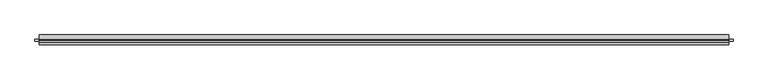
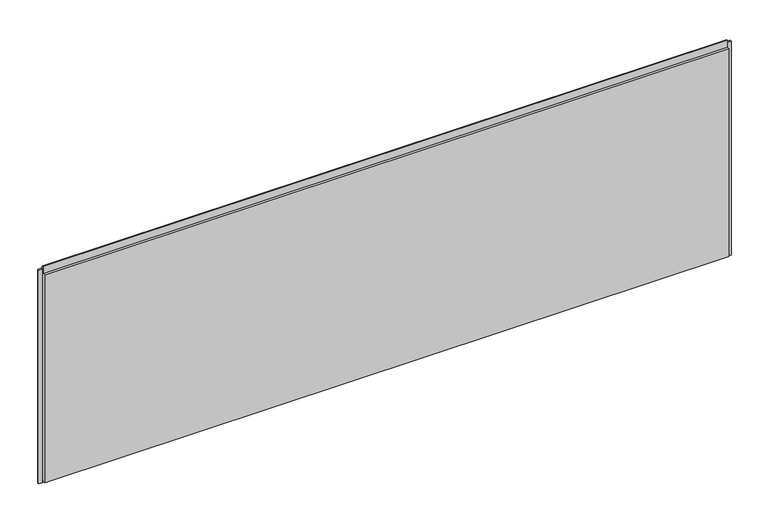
"""IFC4 building model written with IfcOpenShell, lengths in millimetres: plate geometry, Trimo_Qbiss Screen_Normal Panel-HORIZONTAL : HR - B."""

import ifcopenshell
import ifcopenshell.guid

model = None  # the IFC model being written
_history = None  # IfcOwnerHistory: only IFC2X3 demands one
_inside = {}  # id of a spatial element -> (the spatial element, [elements in it])
_under = {}  # id of a project, library or spatial element -> (it, [spatial elements below it])
_declared = {}  # id of a project -> (the project, [libraries it declares])
_typed = {}  # id of a type object -> (the type object, [elements of that type])
_made_of = {}  # id of a material, layer set ... -> (it, [elements and type objects made of it])


def new_model(schema):
    """Start an empty IFC model of exactly this schema.

    Asked for "IFC4X3", IfcOpenShell would pick the latest addendum, in which some entities
    have other attributes; the version numbers below select the first issue.
    IFC2X3 requires an IfcOwnerHistory on every rooted entity: one is made here for all.
    """
    global model, _history
    if schema == "IFC4X3":
        model = ifcopenshell.file(schema_version=(4, 3, 0, 0))
    else:
        model = ifcopenshell.file(schema=schema)
    _inside.clear()
    _under.clear()
    _declared.clear()
    _typed.clear()
    _made_of.clear()
    _history = None
    if model.schema == "IFC2X3":
        org = make("IfcOrganization", Name="unknown")
        user = make(
            "IfcPersonAndOrganization",
            ThePerson=make("IfcPerson", FamilyName="unknown"),
            TheOrganization=org,
        )
        app = make(
            "IfcApplication",
            ApplicationDeveloper=org,
            Version="unknown",
            ApplicationFullName="unknown",
            ApplicationIdentifier="unknown",
        )
        _history = make(
            "IfcOwnerHistory",
            OwningUser=user,
            OwningApplication=app,
            ChangeAction="ADDED",
            CreationDate=0,
        )
    return model


def make(cls, **values):
    """One entity of the class cls with the attributes given. An attribute that is None is left unset."""
    return model.create_entity(
        cls, **{name: value for name, value in values.items() if value is not None}
    )


def rooted(cls, **values):
    """An entity with a GlobalId (a new one), such as an element, a storey or a relation."""
    return make(cls, GlobalId=ifcopenshell.guid.new(), OwnerHistory=_history, **values)


def si_unit(unit_type, name, prefix=None):
    """IfcSIUnit, for example si_unit("LENGTHUNIT", "METRE", prefix="MILLI")."""
    return make("IfcSIUnit", UnitType=unit_type, Prefix=prefix, Name=name)


def assignment(units):
    """IfcUnitAssignment: the units of a project."""
    return None if units is None else make("IfcUnitAssignment", Units=units)


def point(xyz):
    """IfcCartesianPoint."""
    return None if xyz is None else make("IfcCartesianPoint", Coordinates=xyz)


def direction(xyz):
    """IfcDirection."""
    return None if xyz is None else make("IfcDirection", DirectionRatios=xyz)


def frame(location, z_axis=None, x_axis=None):
    """IfcAxis2Placement3D, a coordinate frame: its origin and axes. An axis left out is left unset."""
    return make(
        "IfcAxis2Placement3D",
        Location=point(location),
        Axis=direction(z_axis),
        RefDirection=direction(x_axis),
    )


def origin():
    """The frame at (0, 0, 0) with its axes left unset."""
    return frame((0.0, 0.0, 0.0))


def place(relative_to, where):
    """IfcLocalPlacement: puts the frame where relative to a parent placement (None: the world)."""
    return make(
        "IfcLocalPlacement", PlacementRelTo=relative_to, RelativePlacement=where
    )


def context(
    kind, dimensions, precision=None, world=None, true_north=None, identifier=None
):
    """IfcGeometricRepresentationContext, for example the 3D "Model" context."""
    return make(
        "IfcGeometricRepresentationContext",
        ContextIdentifier=identifier,
        ContextType=kind,
        CoordinateSpaceDimension=dimensions,
        Precision=precision,
        WorldCoordinateSystem=world,
        TrueNorth=true_north,
    )


def project(units=None, contexts=None):
    """IfcProject with its units and contexts."""
    return rooted(
        "IfcProject",
        Name="project",
        RepresentationContexts=contexts,
        UnitsInContext=assignment(units),
    )


def spatial(cls, under=None, at=None, **own):
    """A site, building, storey or space (cls), placed at a placement, below another one or the project."""
    s = rooted(cls, ObjectPlacement=at, **own)
    if under is not None:
        _under.setdefault(under.id(), (under, []))[1].append(s)
    return s


def polyline(points):
    """IfcPolyline through the points."""
    return make("IfcPolyline", Points=[point(p) for p in points])


def outline(outer, holes=None, kind="AREA"):
    """IfcArbitraryClosedProfileDef: a profile drawn as a closed curve; with holes, ...WithVoids."""
    if holes is None:
        return make("IfcArbitraryClosedProfileDef", ProfileType=kind, OuterCurve=outer)
    return make(
        "IfcArbitraryProfileDefWithVoids",
        ProfileType=kind,
        OuterCurve=outer,
        InnerCurves=holes,
    )


def extrude(swept, where, along, depth):
    """IfcExtrudedAreaSolid: the profile swept, set in the frame where, extruded along a direction by depth."""
    return make(
        "IfcExtrudedAreaSolid",
        SweptArea=swept,
        Position=where,
        ExtrudedDirection=direction(along),
        Depth=depth,
    )


def shape(context_of_items, identifier, shape_type, items):
    """IfcShapeRepresentation: the items that make up one representation, for example the "Body"."""
    return make(
        "IfcShapeRepresentation",
        ContextOfItems=context_of_items,
        RepresentationIdentifier=identifier,
        RepresentationType=shape_type,
        Items=items,
    )


def source(mapping_origin, context_of_items, identifier, shape_type, items):
    """IfcRepresentationMap: a shape defined once, which mapped items show again and again."""
    return make(
        "IfcRepresentationMap",
        MappingOrigin=mapping_origin,
        MappedRepresentation=shape(context_of_items, identifier, shape_type, items),
    )


def transform(
    local_origin,
    x_axis=None,
    y_axis=None,
    z_axis=None,
    scale=None,
    scale2=None,
    scale3=None,
    uniform=True,
):
    """IfcCartesianTransformationOperator3D, or its non-uniform kind. x_axis, y_axis, z_axis: its Axis1, 2, 3."""
    if uniform:
        return make(
            "IfcCartesianTransformationOperator3D",
            Axis1=direction(x_axis),
            Axis2=direction(y_axis),
            LocalOrigin=point(local_origin),
            Scale=scale,
            Axis3=direction(z_axis),
        )
    return make(
        "IfcCartesianTransformationOperator3DnonUniform",
        Axis1=direction(x_axis),
        Axis2=direction(y_axis),
        LocalOrigin=point(local_origin),
        Scale=scale,
        Axis3=direction(z_axis),
        Scale2=scale2,
        Scale3=scale3,
    )


def mapped(mapping_source, mapping_target):
    """IfcMappedItem: shows the shape of a source again, moved by a transform."""
    return make(
        "IfcMappedItem", MappingSource=mapping_source, MappingTarget=mapping_target
    )


def made_of(thing, what):
    """Note that an element or type object is made of a material, layer set ...; save() writes the relation."""
    if what is not None:
        _made_of.setdefault(what.id(), (what, []))[1].append(thing)
    return thing


def element(
    cls,
    number,
    at=None,
    inside=None,
    cuts=None,
    type_object=None,
    material=None,
    context=None,
    identifier="Body",
    shape_type=None,
    held_by="IfcProductDefinitionShape",
    body=None,
    shapes=None,
    **own,
):
    """One element of the class cls, such as IfcWall. Its Tag is "e" and its number.

    at: its placement. inside: the storey or other place that contains it. cuts: it is an
    opening in that element (IfcRelVoidsElement). A single representation is given by context,
    identifier, shape_type and body (its items); several are given by shapes. held_by: the class
    of the entity that holds the representations. save() writes the other relations.
    """
    e = rooted(cls, Tag="e%d" % number, ObjectPlacement=at, **own)
    if body is not None:
        shapes = [shape(context, identifier, shape_type, body)]
    if shapes is not None:
        e.Representation = make(held_by, Representations=shapes)
    if inside is not None:
        _inside.setdefault(inside.id(), (inside, []))[1].append(e)
    if cuts is not None:
        rooted(
            "IfcRelVoidsElement", RelatingBuildingElement=cuts, RelatedOpeningElement=e
        )
    if type_object is not None:
        _typed.setdefault(type_object.id(), (type_object, []))[1].append(e)
    return made_of(e, material)


def aggregate(whole, parts):
    """IfcRelAggregates: a whole, such as a stair, and the parts it consists of."""
    return rooted("IfcRelAggregates", RelatingObject=whole, RelatedObjects=parts)


def save(model, path):
    """Write the relations noted so far, then the file.

    IfcRelAggregates (storeys below a building ...), IfcRelContainedInSpatialStructure (elements
    in a storey), IfcRelDefinesByType, IfcRelAssociatesMaterial and IfcRelDeclares: one each for
    every whole, place, type object, material and project.
    """
    for whole, parts in _under.values():
        aggregate(whole, parts)
    for where, things in _inside.values():
        rooted(
            "IfcRelContainedInSpatialStructure",
            RelatedElements=things,
            RelatingStructure=where,
        )
    for kind, things in _typed.values():
        rooted("IfcRelDefinesByType", RelatedObjects=things, RelatingType=kind)
    for what, things in _made_of.values():
        rooted("IfcRelAssociatesMaterial", RelatedObjects=things, RelatingMaterial=what)
    for by, libraries in _declared.values():
        rooted("IfcRelDeclares", RelatingContext=by, RelatedDefinitions=libraries)
    model.write(path)


def plate_7cec9b98(model_context):
    return source(origin(), model_context, "Body", "SweptSolid", [
        extrude(outline(polyline([(-1778.0, 76.5978162), (-1778.0, 67.8978162), (-1797.0, 67.8978162), (-1797.0, 76.5978162), (-1778.0, 76.5978162)])), frame((0.0, 0.0, -1.0), z_axis=(0.0, 0.0, 1.0), x_axis=(1.0, 0.0, 0.0)), (0.0, 0.0, 1.0), 1172.5),
        extrude(outline(polyline([(1778.0, 67.8978162), (1778.0, 76.5978162), (1797.0, 76.5978162), (1797.0, 67.8978162), (1778.0, 67.8978162)])), frame((0.0, 0.0, -1.0), z_axis=(0.0, 0.0, 1.0), x_axis=(1.0, 0.0, 0.0)), (0.0, 0.0, 1.0), 1172.5),
        extrude(outline(polyline([(1775.0, 76.0), (1775.0, 71.0), (-1775.0, 71.0), (-1775.0, 76.0), (1775.0, 76.0)])), frame((0.0, 0.0, 1150.5), z_axis=(0.0, 0.0, 1.0), x_axis=(1.0, 0.0, 0.0)), (0.0, 0.0, 1.0), 21.0),
        extrude(outline(polyline([(71.0, 1149.5), (100.0, 1149.5), (100.0, 0.0), (72.0, 0.0), (72.0, 15.5), (62.0, 15.5), (62.0, 7.0), (50.0, 7.0), (50.0, 1149.5), (63.0, 1149.5), (63.0, 1187.0), (71.0, 1187.0), (71.0, 1149.5)])), frame((-1775.0, 0.0, 0.0), z_axis=(1.0, 0.0, 0.0), x_axis=(0.0, 1.0, 0.0)), (0.0, 0.0, 1.0), 3550.0),
    ])


if __name__ == "__main__":
    model = new_model("IFC4")
    model_context = context("Model", 3, world=origin())
    ifc_project = project(units=[si_unit("LENGTHUNIT", "METRE", prefix="MILLI")], contexts=[model_context])
    site = spatial("IfcSite", under=ifc_project)
    building = spatial("IfcBuilding", under=site)
    placement = place(None, origin())
    plate_shape = plate_7cec9b98(model_context)
    element("IfcPlate", 1, ObjectType="Trimo_Qbiss Screen_Normal Panel-HORIZONTAL : HR - B", at=placement, inside=building, context=model_context, shape_type="MappedRepresentation", body=[
        mapped(plate_shape, transform((0.0, 0.0, 0.0), x_axis=(1.0, 0.0, 0.0), y_axis=(0.0, 1.0, 0.0), z_axis=(0.0, 0.0, 1.0))),
    ])
    save(model, "model.ifc")
